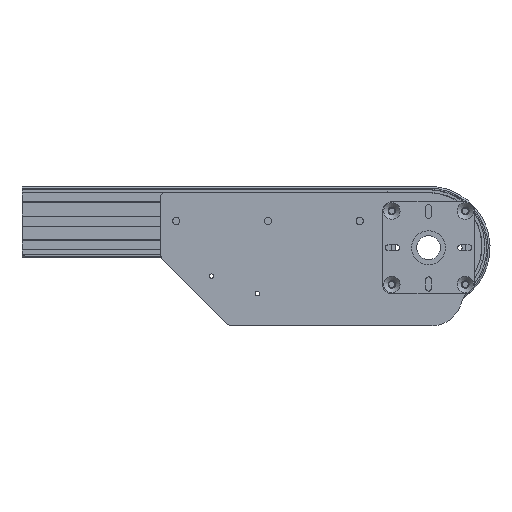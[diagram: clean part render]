
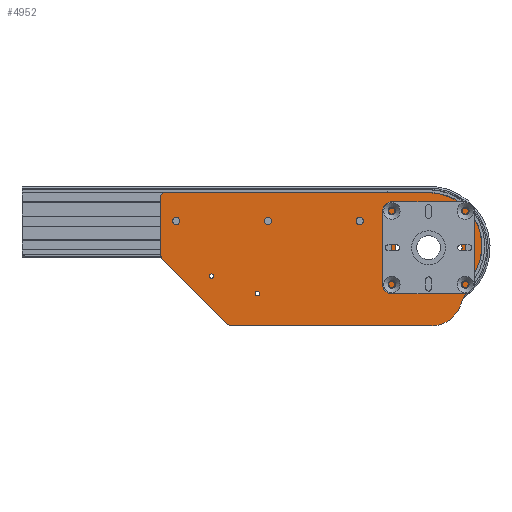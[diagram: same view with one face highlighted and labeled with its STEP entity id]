
A CAD part, front view. The second image highlights one B-rep face of the part: STEP entity #4952.
In plain terms, the highlighted planar face has unit normal (0, -1, 0) as drawn and (0, 0, -1) by its records, which use the part's own axes.
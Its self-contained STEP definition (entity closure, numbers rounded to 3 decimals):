
#99=FACE_BOUND('',#738,.T.);
#100=FACE_BOUND('',#739,.T.);
#101=FACE_BOUND('',#740,.T.);
#102=FACE_BOUND('',#741,.T.);
#103=FACE_BOUND('',#742,.T.);
#104=FACE_BOUND('',#743,.T.);
#105=FACE_BOUND('',#744,.T.);
#106=FACE_BOUND('',#745,.T.);
#276=PLANE('',#5499);
#462=FACE_OUTER_BOUND('',#737,.T.);
#737=EDGE_LOOP('',(#3973,#3974,#3975,#3976,#3977,#3978,#3979,#3980,#3981,
#3982));
#738=EDGE_LOOP('',(#3983));
#739=EDGE_LOOP('',(#3984));
#740=EDGE_LOOP('',(#3985));
#741=EDGE_LOOP('',(#3986));
#742=EDGE_LOOP('',(#3987));
#743=EDGE_LOOP('',(#3988));
#744=EDGE_LOOP('',(#3989));
#745=EDGE_LOOP('',(#3990));
#970=CIRCLE('',#5450,13.);
#972=CIRCLE('',#5453,4.);
#974=CIRCLE('',#5456,4.);
#976=CIRCLE('',#5459,4.);
#978=CIRCLE('',#5462,4.);
#980=CIRCLE('',#5465,4.);
#982=CIRCLE('',#5468,2.5);
#984=CIRCLE('',#5471,2.5);
#992=CIRCLE('',#5485,5.);
#993=CIRCLE('',#5487,5.);
#994=CIRCLE('',#5490,5.);
#995=CIRCLE('',#5493,32.5);
#997=CIRCLE('',#5497,58.);
#1398=LINE('',#7931,#1875);
#1407=LINE('',#7962,#1884);
#1410=LINE('',#7970,#1887);
#1413=LINE('',#7978,#1890);
#1416=LINE('',#7987,#1893);
#1875=VECTOR('',#6426,62.79);
#1884=VECTOR('',#6457,101.961);
#1887=VECTOR('',#6466,218.716);
#1890=VECTOR('',#6475,48.308);
#1893=VECTOR('',#6486,287.);
#2289=VERTEX_POINT('',#7857);
#2291=VERTEX_POINT('',#7863);
#2293=VERTEX_POINT('',#7869);
#2295=VERTEX_POINT('',#7875);
#2297=VERTEX_POINT('',#7881);
#2299=VERTEX_POINT('',#7887);
#2301=VERTEX_POINT('',#7893);
#2303=VERTEX_POINT('',#7899);
#2314=VERTEX_POINT('',#7928);
#2315=VERTEX_POINT('',#7930);
#2324=VERTEX_POINT('',#7952);
#2325=VERTEX_POINT('',#7956);
#2326=VERTEX_POINT('',#7960);
#2327=VERTEX_POINT('',#7964);
#2328=VERTEX_POINT('',#7968);
#2329=VERTEX_POINT('',#7972);
#2330=VERTEX_POINT('',#7976);
#2332=VERTEX_POINT('',#7982);
#2862=EDGE_CURVE('',#2289,#2289,#970,.T.);
#2865=EDGE_CURVE('',#2291,#2291,#972,.T.);
#2868=EDGE_CURVE('',#2293,#2293,#974,.T.);
#2871=EDGE_CURVE('',#2295,#2295,#976,.T.);
#2874=EDGE_CURVE('',#2297,#2297,#978,.T.);
#2877=EDGE_CURVE('',#2299,#2299,#980,.T.);
#2880=EDGE_CURVE('',#2301,#2301,#982,.T.);
#2883=EDGE_CURVE('',#2303,#2303,#984,.T.);
#2898=EDGE_CURVE('',#2314,#2315,#1398,.T.);
#2909=EDGE_CURVE('',#2315,#2324,#992,.T.);
#2912=EDGE_CURVE('',#2325,#2314,#993,.T.);
#2914=EDGE_CURVE('',#2326,#2325,#1407,.T.);
#2916=EDGE_CURVE('',#2327,#2326,#994,.T.);
#2918=EDGE_CURVE('',#2328,#2327,#1410,.T.);
#2920=EDGE_CURVE('',#2329,#2328,#995,.T.);
#2922=EDGE_CURVE('',#2330,#2329,#1413,.T.);
#2925=EDGE_CURVE('',#2332,#2330,#997,.T.);
#2927=EDGE_CURVE('',#2324,#2332,#1416,.T.);
#3973=ORIENTED_EDGE('',*,*,#2927,.F.);
#3974=ORIENTED_EDGE('',*,*,#2909,.F.);
#3975=ORIENTED_EDGE('',*,*,#2898,.F.);
#3976=ORIENTED_EDGE('',*,*,#2912,.F.);
#3977=ORIENTED_EDGE('',*,*,#2914,.F.);
#3978=ORIENTED_EDGE('',*,*,#2916,.F.);
#3979=ORIENTED_EDGE('',*,*,#2918,.F.);
#3980=ORIENTED_EDGE('',*,*,#2920,.F.);
#3981=ORIENTED_EDGE('',*,*,#2922,.F.);
#3982=ORIENTED_EDGE('',*,*,#2925,.F.);
#3983=ORIENTED_EDGE('',*,*,#2883,.T.);
#3984=ORIENTED_EDGE('',*,*,#2880,.T.);
#3985=ORIENTED_EDGE('',*,*,#2877,.T.);
#3986=ORIENTED_EDGE('',*,*,#2874,.T.);
#3987=ORIENTED_EDGE('',*,*,#2871,.T.);
#3988=ORIENTED_EDGE('',*,*,#2868,.T.);
#3989=ORIENTED_EDGE('',*,*,#2865,.T.);
#3990=ORIENTED_EDGE('',*,*,#2862,.T.);
#4952=ADVANCED_FACE('',(#462,#99,#100,#101,#102,#103,#104,#105,#106),#276,
 .F.);
#5450=AXIS2_PLACEMENT_3D('',#7858,#6351,#6352);
#5453=AXIS2_PLACEMENT_3D('',#7864,#6358,#6359);
#5456=AXIS2_PLACEMENT_3D('',#7870,#6365,#6366);
#5459=AXIS2_PLACEMENT_3D('',#7876,#6372,#6373);
#5462=AXIS2_PLACEMENT_3D('',#7882,#6379,#6380);
#5465=AXIS2_PLACEMENT_3D('',#7888,#6386,#6387);
#5468=AXIS2_PLACEMENT_3D('',#7894,#6393,#6394);
#5471=AXIS2_PLACEMENT_3D('',#7900,#6400,#6401);
#5485=AXIS2_PLACEMENT_3D('',#7953,#6446,#6447);
#5487=AXIS2_PLACEMENT_3D('',#7958,#6452,#6453);
#5490=AXIS2_PLACEMENT_3D('',#7966,#6461,#6462);
#5493=AXIS2_PLACEMENT_3D('',#7974,#6470,#6471);
#5497=AXIS2_PLACEMENT_3D('',#7984,#6481,#6482);
#5499=AXIS2_PLACEMENT_3D('',#7988,#6487,#6488);
#6351=DIRECTION('center_axis',(0.,0.,1.));
#6352=DIRECTION('ref_axis',(1.,0.,0.));
#6358=DIRECTION('center_axis',(0.,0.,1.));
#6359=DIRECTION('ref_axis',(1.,0.,0.));
#6365=DIRECTION('center_axis',(0.,0.,1.));
#6366=DIRECTION('ref_axis',(1.,0.,0.));
#6372=DIRECTION('center_axis',(0.,0.,1.));
#6373=DIRECTION('ref_axis',(1.,0.,0.));
#6379=DIRECTION('center_axis',(0.,0.,1.));
#6380=DIRECTION('ref_axis',(1.,0.,0.));
#6386=DIRECTION('center_axis',(0.,0.,1.));
#6387=DIRECTION('ref_axis',(1.,0.,0.));
#6393=DIRECTION('center_axis',(0.,0.,1.));
#6394=DIRECTION('ref_axis',(1.,0.,0.));
#6400=DIRECTION('center_axis',(0.,0.,1.));
#6401=DIRECTION('ref_axis',(1.,0.,0.));
#6426=DIRECTION('',(0.,1.,0.));
#6446=DIRECTION('center_axis',(0.,0.,1.));
#6447=DIRECTION('ref_axis',(1.,0.,0.));
#6452=DIRECTION('center_axis',(0.,0.,1.));
#6453=DIRECTION('ref_axis',(1.,0.,0.));
#6457=DIRECTION('',(0.706,0.708,0.));
#6461=DIRECTION('center_axis',(0.,0.,1.));
#6462=DIRECTION('ref_axis',(1.,0.,0.));
#6466=DIRECTION('',(1.,0.,0.));
#6470=DIRECTION('center_axis',(0.,0.,1.));
#6471=DIRECTION('ref_axis',(1.,0.,0.));
#6475=DIRECTION('',(0.406,-0.914,0.));
#6481=DIRECTION('center_axis',(0.,0.,1.));
#6482=DIRECTION('ref_axis',(1.,0.,0.));
#6486=DIRECTION('',(-1.,0.,0.));
#6487=DIRECTION('center_axis',(0.,0.,1.));
#6488=DIRECTION('ref_axis',(1.,0.,0.));
#7857=CARTESIAN_POINT('',(-130.,12.5,-3.));
#7858=CARTESIAN_POINT('Origin',(-117.,12.5,-3.));
#7863=CARTESIAN_POINT('',(-88.5,12.5,-3.));
#7864=CARTESIAN_POINT('Origin',(-84.5,12.5,-3.));
#7869=CARTESIAN_POINT('',(-153.5,12.5,-3.));
#7870=CARTESIAN_POINT('Origin',(-149.5,12.5,-3.));
#7875=CARTESIAN_POINT('',(154.,41.5,-3.));
#7876=CARTESIAN_POINT('Origin',(158.,41.5,-3.));
#7881=CARTESIAN_POINT('',(54.,41.5,-3.));
#7882=CARTESIAN_POINT('Origin',(58.,41.5,-3.));
#7887=CARTESIAN_POINT('',(-46.,41.5,-3.));
#7888=CARTESIAN_POINT('Origin',(-42.,41.5,-3.));
#7893=CARTESIAN_POINT('',(67.,-37.5,-3.));
#7894=CARTESIAN_POINT('Origin',(69.5,-37.5,-3.));
#7899=CARTESIAN_POINT('',(117.,-18.5,-3.));
#7900=CARTESIAN_POINT('Origin',(119.5,-18.5,-3.));
#7928=CARTESIAN_POINT('',(175.,4.71,-3.));
#7930=CARTESIAN_POINT('',(175.,67.5,-3.));
#7931=CARTESIAN_POINT('',(175.,4.71,-3.));
#7952=CARTESIAN_POINT('',(170.,72.5,-3.));
#7953=CARTESIAN_POINT('Origin',(170.,67.5,-3.));
#7956=CARTESIAN_POINT('',(173.541,1.18,-3.));
#7958=CARTESIAN_POINT('Origin',(170.,4.71,-3.));
#7960=CARTESIAN_POINT('',(101.557,-71.03,-3.));
#7962=CARTESIAN_POINT('',(101.557,-71.03,-3.));
#7964=CARTESIAN_POINT('',(98.016,-72.5,-3.));
#7966=CARTESIAN_POINT('Origin',(98.016,-67.5,-3.));
#7968=CARTESIAN_POINT('',(-120.7,-72.5,-3.));
#7970=CARTESIAN_POINT('',(-120.7,-72.5,-3.));
#7972=CARTESIAN_POINT('',(-150.403,-53.19,-3.));
#7974=CARTESIAN_POINT('Origin',(-120.7,-40.,-3.));
#7976=CARTESIAN_POINT('',(-170.009,-9.039,-3.));
#7978=CARTESIAN_POINT('',(-170.009,-9.039,-3.));
#7982=CARTESIAN_POINT('',(-117.,72.5,-3.));
#7984=CARTESIAN_POINT('Origin',(-117.,14.5,-3.));
#7987=CARTESIAN_POINT('',(170.,72.5,-3.));
#7988=CARTESIAN_POINT('Origin',(31.937,-5.286,-3.));
